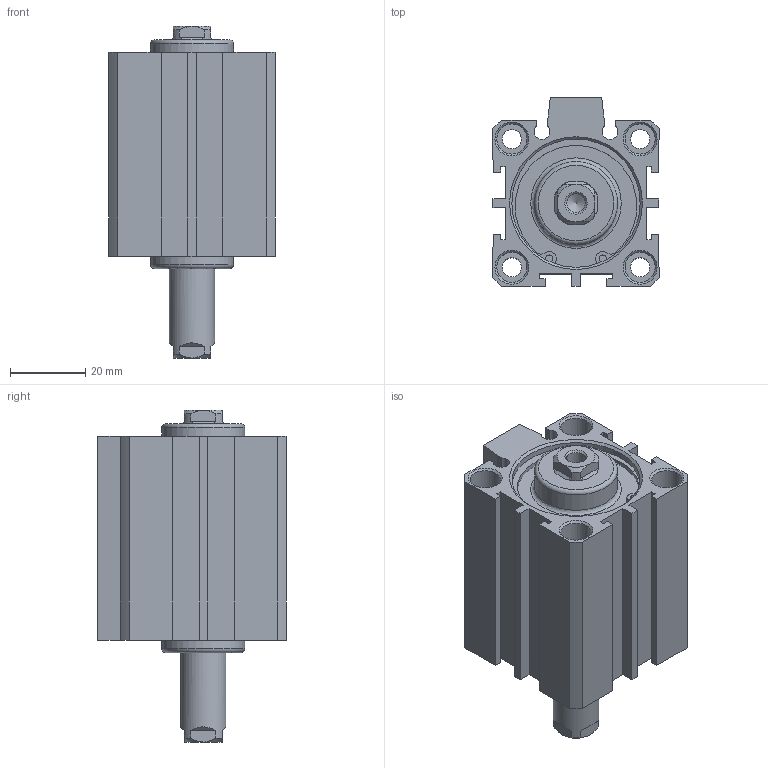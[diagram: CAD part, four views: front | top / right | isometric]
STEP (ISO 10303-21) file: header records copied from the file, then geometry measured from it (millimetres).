
FILE_DESCRIPTION((''),'2;1');
FILE_NAME('I:\3D電子目錄\氣缸\JDD\JDD-S\JDD32-S\JDD32x20-S.stp','2007-02-08T14:42:00',('662F206'),(''),'Autodesk Inventor 10','Autodesk Inventor 10','');
FILE_SCHEMA(('AUTOMOTIVE_DESIGN { 1 0 10303 214 1 1 1 1 }'));
Length unit declared in the file: millimetre
Products named in the file (3): JDD32-S; R 形環 35
Assembly tree (3 placements, depth 2):
  JDD32-S
    JDD32-S
    R 形環 35  x2
Bounding box: 44 x 50 x 88 mm (x, y, z)
Volume: 92858.8 mm3; surface area: 26942.9 mm2
Topology: 3 solids, 3 shells, 177 faces, 425 edges, 276 vertices
Faces by surface type: plane 94, cylinder 49, cone 22, bspline 10, torus 2
Full cylindrical faces by diameter (mm): 1.9 x4, 2.2 x2, 5.1 x4, 8 x8, 12 x1, 22 x2, 34 x4, 36 x2
Entity records: 4715 total; most frequent: CARTESIAN_POINT 983, DIRECTION 774, ORIENTED_EDGE 674, EDGE_CURVE 337, AXIS2_PLACEMENT_3D 292, EDGE_LOOP 248, VERTEX_POINT 247, VECTOR 190
